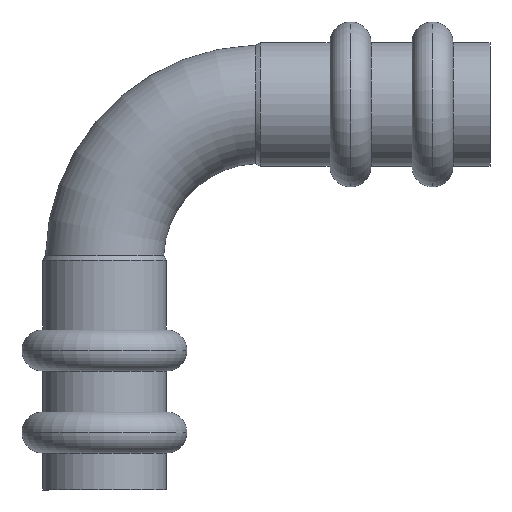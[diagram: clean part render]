
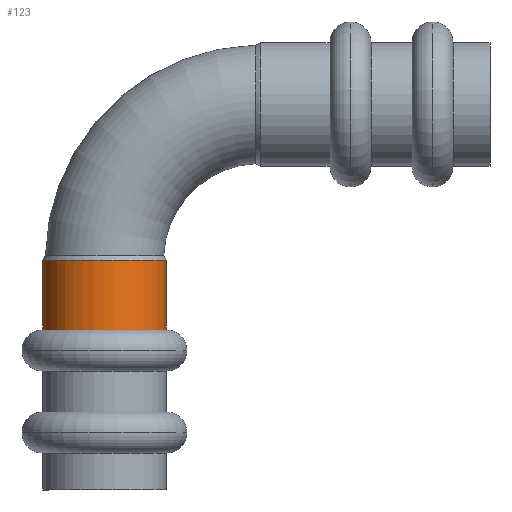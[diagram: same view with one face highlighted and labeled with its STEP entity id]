
A CAD part, front view. The second image highlights one B-rep face of the part: STEP entity #123.
In plain terms, the highlighted cylindrical face has radius 7.55 mm (diameter 15.1 mm), a partial arc.
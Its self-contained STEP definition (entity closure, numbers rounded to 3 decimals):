
#123=ADVANCED_FACE('',(#283),#284,.T.);
#283=FACE_OUTER_BOUND('',#487,.T.);
#284=CYLINDRICAL_SURFACE('',#488,7.55);
#487=EDGE_LOOP('',(#775,#776,#777,#778));
#488=AXIS2_PLACEMENT_3D('',#779,#780,#781);
#775=ORIENTED_EDGE('',*,*,#1203,.F.);
#776=ORIENTED_EDGE('',*,*,#1204,.T.);
#777=ORIENTED_EDGE('',*,*,#1205,.F.);
#778=ORIENTED_EDGE('',*,*,#1145,.F.);
#779=CARTESIAN_POINT('',(0.,0.0,23.75));
#780=DIRECTION('',(0.,0.0,-1.0));
#781=DIRECTION('',(1.0,0.0,0.));
#1145=EDGE_CURVE('',#1345,#1347,#1348,.T.);
#1203=EDGE_CURVE('',#1428,#1345,#1429,.T.);
#1204=EDGE_CURVE('',#1428,#1430,#1431,.T.);
#1205=EDGE_CURVE('',#1347,#1430,#1432,.T.);
#1345=VERTEX_POINT('',#1742);
#1347=VERTEX_POINT('',#1744);
#1348=CIRCLE('',#1745,7.55);
#1428=VERTEX_POINT('',#1829);
#1429=LINE('',#1830,#1831);
#1430=VERTEX_POINT('',#1832);
#1431=CIRCLE('',#1833,7.55);
#1432=LINE('',#1834,#1835);
#1742=CARTESIAN_POINT('',(7.55,0.,19.5));
#1744=CARTESIAN_POINT('',(-7.55,0.,19.5));
#1745=AXIS2_PLACEMENT_3D('',#2168,#2169,#2170);
#1829=CARTESIAN_POINT('',(7.55,0.,28.));
#1830=CARTESIAN_POINT('',(7.55,0.,23.75));
#1831=VECTOR('',#2289,1.0);
#1832=CARTESIAN_POINT('',(-7.55,0.,28.));
#1833=AXIS2_PLACEMENT_3D('',#2290,#2291,#2292);
#1834=CARTESIAN_POINT('',(-7.55,0.,23.75));
#1835=VECTOR('',#2293,1.0);
#2168=CARTESIAN_POINT('',(0.,0.0,19.5));
#2169=DIRECTION('',(0.,0.0,-1.0));
#2170=DIRECTION('',(1.0,0.0,0.));
#2289=DIRECTION('',(0.,0.0,-1.0));
#2290=CARTESIAN_POINT('',(0.,0.0,28.));
#2291=DIRECTION('',(0.,0.0,-1.0));
#2292=DIRECTION('',(1.0,0.0,0.));
#2293=DIRECTION('',(0.,-0.0,1.0));
